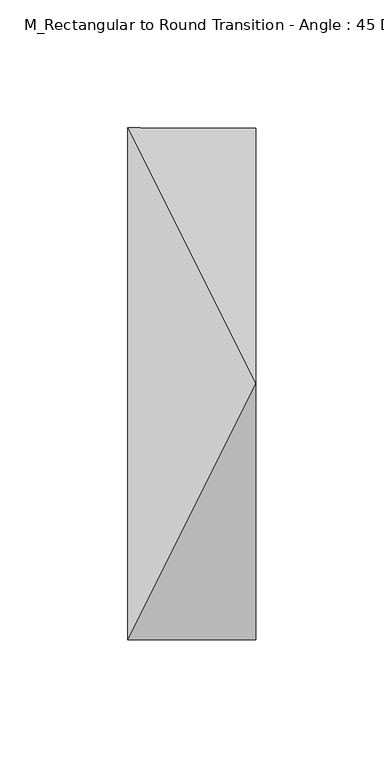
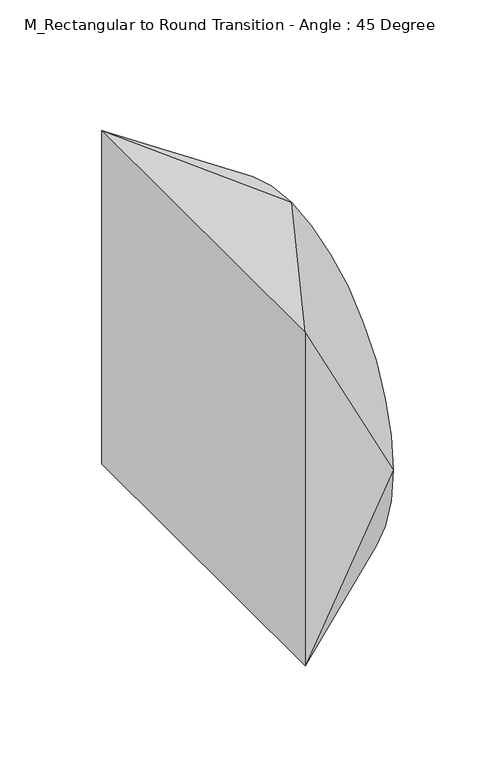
"""IFC4 building model written with IfcOpenShell, lengths in millimetres: duct fitting geometry, M_Rectangular to Round Transition - Angle : 45 Degree."""

from ifc_helpers import new_model, si_unit, frame, origin, place, context, project, spatial, circle_curve, source, transform, mapped, element, save
from ifc_brep_helpers import plane_surface, spline_surface, advanced_brep


def m_rectangular_to_round_transition_angle_45_degree_c109dcb1(model_context):
    return source(origin(), model_context, "Body", "AdvancedBrep", [
        advanced_brep(
        [(0.0, -100.0, -100.0), (0.0, -100.0, 100.0), (0.0, 100.0, 100.0), (0.0, 100.0, -100.0), (50.0, -100.0, 0.0), (50.0, 0.0, -100.0), (50.0, 100.0, 0.0), (50.0, 0.0, 100.0)],
        [
            (0, 1),
            (1, 2),
            (2, 3),
            (3, 0),
            (4, 5, circle_curve(frame((50.0, 0.0, 0.0), z_axis=(1.0, 0.0, 0.0), x_axis=(0.0, -1.0, 0.0)), 100.0)),
            (5, 6, circle_curve(frame((50.0, 0.0, 0.0), z_axis=(1.0, 0.0, 0.0), x_axis=(0.0, -1.0, 0.0)), 100.0)),
            (6, 7, circle_curve(frame((50.0, 0.0, 0.0), z_axis=(1.0, 0.0, 0.0), x_axis=(0.0, -1.0, 0.0)), 100.0)),
            (7, 4, circle_curve(frame((50.0, 0.0, 0.0), z_axis=(1.0, 0.0, 0.0), x_axis=(0.0, -1.0, 0.0)), 100.0)),
            (0, 4),
            (4, 1),
            (7, 1),
            (7, 2),
            (6, 2),
            (6, 3),
            (5, 3),
            (5, 0),
        ],
        [
            plane_surface(frame((0.0, 0.0, 0.0), z_axis=(-1.0, 0.0, 0.0), x_axis=(0.0, 1.0, 0.0))),
            plane_surface(frame((50.0, 0.0, 0.0), z_axis=(1.0, 0.0, 0.0), x_axis=(0.0, 1.0, 0.0))),
            plane_surface(frame((50.0, -100.0, 0.0), z_axis=(0.0, -1.0, 0.0), x_axis=(0.0, 0.0, 1.0))),
            spline_surface(2, 1, [[(50.0, -100.0, 0.0), (0.0, -100.0, 100.0)], [(50.0, -100.0, 100.0), (0.0, -100.0, 100.0)], [(50.0, 0.0, 100.0), (0.0, -100.0, 100.0)]], [3, 3], [2, 2], [0.0, 1.0], [0.0, 1.0], weights=[[1.0, 1.0], [0.7071067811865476, 0.7071067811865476], [1.0, 1.0]]),
            plane_surface(frame((50.0, 0.0, 100.0), z_axis=(0.0, 0.0, 1.0), x_axis=(0.0, 1.0, 0.0))),
            spline_surface(2, 1, [[(50.0, 0.0, 100.0), (0.0, 100.0, 100.0)], [(50.0, 100.0, 100.0), (0.0, 100.0, 100.0)], [(50.0, 100.0, 0.0), (0.0, 100.0, 100.0)]], [3, 3], [2, 2], [0.0, 1.0], [0.0, 1.0], weights=[[1.0, 1.0], [0.7071067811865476, 0.7071067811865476], [1.0, 1.0]]),
            plane_surface(frame((50.0, 100.0, 0.0), z_axis=(0.0, 1.0, 0.0), x_axis=(0.0, 0.0, -1.0))),
            spline_surface(2, 1, [[(50.0, 100.0, 0.0), (0.0, 100.0, -100.0)], [(50.0, 100.0, -100.0), (0.0, 100.0, -100.0)], [(50.0, 0.0, -100.0), (0.0, 100.0, -100.0)]], [3, 3], [2, 2], [0.0, 1.0], [0.0, 1.0], weights=[[1.0, 1.0], [0.7071067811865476, 0.7071067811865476], [1.0, 1.0]]),
            plane_surface(frame((50.0, 0.0, -100.0), z_axis=(0.0, 0.0, -1.0), x_axis=(0.0, -1.0, 0.0))),
            spline_surface(2, 1, [[(50.0, 0.0, -100.0), (0.0, -100.0, -100.0)], [(50.0, -100.0, -100.0), (0.0, -100.0, -100.0)], [(50.0, -100.0, 0.0), (0.0, -100.0, -100.0)]], [3, 3], [2, 2], [0.0, 1.0], [0.0, 1.0], weights=[[1.0, 1.0], [0.7071067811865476, 0.7071067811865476], [1.0, 1.0]]),
        ],
        [
            (0, [[1, 2, 3, 4]]),
            (1, [[5, 6, 7, 8]]),
            (2, [[-1, 9, 10]]),
            (3, [[-8, 11, -10]]),
            (4, [[-2, -11, 12]]),
            (5, [[-7, 13, -12]]),
            (6, [[-3, -13, 14]]),
            (7, [[-6, 15, -14]]),
            (8, [[-4, -15, 16]]),
            (9, [[-5, -9, -16]]),
        ],
    ),
        advanced_brep(
        [(0.0, -100.0, -100.0), (0.0, -100.0, 100.0), (0.0, 100.0, 100.0), (0.0, 100.0, -100.0), (50.0, -100.0, 0.0), (50.0, 0.0, -100.0), (50.0, 100.0, 0.0), (50.0, 0.0, 100.0)],
        [
            (0, 1),
            (1, 2),
            (2, 3),
            (3, 0),
            (4, 5, circle_curve(frame((50.0, 0.0, 0.0), z_axis=(1.0, 0.0, 0.0), x_axis=(0.0, -1.0, 0.0)), 100.0)),
            (5, 6, circle_curve(frame((50.0, 0.0, 0.0), z_axis=(1.0, 0.0, 0.0), x_axis=(0.0, -1.0, 0.0)), 100.0)),
            (6, 7, circle_curve(frame((50.0, 0.0, 0.0), z_axis=(1.0, 0.0, 0.0), x_axis=(0.0, -1.0, 0.0)), 100.0)),
            (7, 4, circle_curve(frame((50.0, 0.0, 0.0), z_axis=(1.0, 0.0, 0.0), x_axis=(0.0, -1.0, 0.0)), 100.0)),
            (0, 4),
            (4, 1),
            (7, 1),
            (7, 2),
            (6, 2),
            (6, 3),
            (5, 3),
            (5, 0),
        ],
        [
            plane_surface(frame((0.0, 0.0, 0.0), z_axis=(-1.0, 0.0, 0.0), x_axis=(0.0, 1.0, 0.0))),
            plane_surface(frame((50.0, 0.0, 0.0), z_axis=(1.0, 0.0, 0.0), x_axis=(0.0, 1.0, 0.0))),
            plane_surface(frame((50.0, -100.0, 0.0), z_axis=(0.0, -1.0, 0.0), x_axis=(0.0, 0.0, 1.0))),
            spline_surface(2, 1, [[(50.0, -100.0, 0.0), (0.0, -100.0, 100.0)], [(50.0, -100.0, 100.0), (0.0, -100.0, 100.0)], [(50.0, 0.0, 100.0), (0.0, -100.0, 100.0)]], [3, 3], [2, 2], [0.0, 1.0], [0.0, 1.0], weights=[[1.0, 1.0], [0.7071067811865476, 0.7071067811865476], [1.0, 1.0]]),
            plane_surface(frame((50.0, 0.0, 100.0), z_axis=(0.0, 0.0, 1.0), x_axis=(0.0, 1.0, 0.0))),
            spline_surface(2, 1, [[(50.0, 0.0, 100.0), (0.0, 100.0, 100.0)], [(50.0, 100.0, 100.0), (0.0, 100.0, 100.0)], [(50.0, 100.0, 0.0), (0.0, 100.0, 100.0)]], [3, 3], [2, 2], [0.0, 1.0], [0.0, 1.0], weights=[[1.0, 1.0], [0.7071067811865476, 0.7071067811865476], [1.0, 1.0]]),
            plane_surface(frame((50.0, 100.0, 0.0), z_axis=(0.0, 1.0, 0.0), x_axis=(0.0, 0.0, -1.0))),
            spline_surface(2, 1, [[(50.0, 100.0, 0.0), (0.0, 100.0, -100.0)], [(50.0, 100.0, -100.0), (0.0, 100.0, -100.0)], [(50.0, 0.0, -100.0), (0.0, 100.0, -100.0)]], [3, 3], [2, 2], [0.0, 1.0], [0.0, 1.0], weights=[[1.0, 1.0], [0.7071067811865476, 0.7071067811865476], [1.0, 1.0]]),
            plane_surface(frame((50.0, 0.0, -100.0), z_axis=(0.0, 0.0, -1.0), x_axis=(0.0, -1.0, 0.0))),
            spline_surface(2, 1, [[(50.0, 0.0, -100.0), (0.0, -100.0, -100.0)], [(50.0, -100.0, -100.0), (0.0, -100.0, -100.0)], [(50.0, -100.0, 0.0), (0.0, -100.0, -100.0)]], [3, 3], [2, 2], [0.0, 1.0], [0.0, 1.0], weights=[[1.0, 1.0], [0.7071067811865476, 0.7071067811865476], [1.0, 1.0]]),
        ],
        [
            (0, [[1, 2, 3, 4]]),
            (1, [[5, 6, 7, 8]]),
            (2, [[-1, 9, 10]]),
            (3, [[-8, 11, -10]]),
            (4, [[-2, -11, 12]]),
            (5, [[-7, 13, -12]]),
            (6, [[-3, -13, 14]]),
            (7, [[-6, 15, -14]]),
            (8, [[-4, -15, 16]]),
            (9, [[-5, -9, -16]]),
        ],
    ),
        advanced_brep(
        [(50.0, 0.0, 100.0), (50.0, -100.0, 0.0), (50.0, 0.0, -100.0), (50.0, 100.0, 0.0), (0.0, -100.0, 100.0), (0.0, 100.0, 100.0), (0.0, 100.0, -100.0), (0.0, -100.0, -100.0)],
        [
            (0, 1, circle_curve(frame((50.0, 0.0, 0.0), z_axis=(1.0, 0.0, 0.0), x_axis=(0.0, 1.0, 0.0)), 100.0)),
            (1, 2, circle_curve(frame((50.0, 0.0, 0.0), z_axis=(1.0, 0.0, 0.0), x_axis=(0.0, 1.0, 0.0)), 100.0)),
            (2, 3, circle_curve(frame((50.0, 0.0, 0.0), z_axis=(1.0, 0.0, 0.0), x_axis=(0.0, 1.0, 0.0)), 100.0)),
            (3, 0, circle_curve(frame((50.0, 0.0, 0.0), z_axis=(1.0, 0.0, 0.0), x_axis=(0.0, 1.0, 0.0)), 100.0)),
            (4, 5),
            (5, 6),
            (6, 7),
            (7, 4),
            (0, 4),
            (4, 1),
            (7, 1),
            (7, 2),
            (6, 2),
            (6, 3),
            (5, 3),
            (5, 0),
        ],
        [
            plane_surface(frame((50.0, 0.0, 0.0), z_axis=(1.0, 0.0, 0.0), x_axis=(0.0, 0.0, -1.0))),
            plane_surface(frame((0.0, 0.0, 0.0), z_axis=(-1.0, 0.0, 0.0), x_axis=(0.0, 0.0, -1.0))),
            spline_surface(2, 1, [[(0.0, -100.0, 100.0), (50.0, 0.0, 100.0)], [(0.0, -100.0, 100.0), (50.0, -100.0, 100.0)], [(0.0, -100.0, 100.0), (50.0, -100.0, 0.0)]], [3, 3], [2, 2], [0.0, 1.0], [0.0, 1.0], weights=[[1.0, 1.0], [0.7071067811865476, 0.7071067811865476], [1.0, 1.0]]),
            plane_surface(frame((0.0, -100.0, 0.0), z_axis=(0.0, -1.0, 0.0), x_axis=(0.0, 0.0, -1.0))),
            spline_surface(2, 1, [[(0.0, -100.0, -100.0), (50.0, -100.0, 0.0)], [(0.0, -100.0, -100.0), (50.0, -100.0, -100.0)], [(0.0, -100.0, -100.0), (50.0, 0.0, -100.0)]], [3, 3], [2, 2], [0.0, 1.0], [0.0, 1.0], weights=[[1.0, 1.0], [0.7071067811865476, 0.7071067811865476], [1.0, 1.0]]),
            plane_surface(frame((0.0, 0.0, -100.0), z_axis=(0.0, 0.0, -1.0), x_axis=(0.0, 1.0, 0.0))),
            spline_surface(2, 1, [[(0.0, 100.0, -100.0), (50.0, 0.0, -100.0)], [(0.0, 100.0, -100.0), (50.0, 100.0, -100.0)], [(0.0, 100.0, -100.0), (50.0, 100.0, 0.0)]], [3, 3], [2, 2], [0.0, 1.0], [0.0, 1.0], weights=[[1.0, 1.0], [0.7071067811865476, 0.7071067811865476], [1.0, 1.0]]),
            plane_surface(frame((0.0, 100.0, 0.0), z_axis=(0.0, 1.0, 0.0), x_axis=(0.0, 0.0, 1.0))),
            spline_surface(2, 1, [[(0.0, 100.0, 100.0), (50.0, 100.0, 0.0)], [(0.0, 100.0, 100.0), (50.0, 100.0, 100.0)], [(0.0, 100.0, 100.0), (50.0, 0.0, 100.0)]], [3, 3], [2, 2], [0.0, 1.0], [0.0, 1.0], weights=[[1.0, 1.0], [0.7071067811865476, 0.7071067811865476], [1.0, 1.0]]),
            plane_surface(frame((0.0, 0.0, 100.0), z_axis=(0.0, 0.0, 1.0), x_axis=(0.0, -1.0, 0.0))),
        ],
        [
            (0, [[1, 2, 3, 4]]),
            (1, [[5, 6, 7, 8]]),
            (2, [[-1, 9, 10]]),
            (3, [[-8, 11, -10]]),
            (4, [[-2, -11, 12]]),
            (5, [[-7, 13, -12]]),
            (6, [[-3, -13, 14]]),
            (7, [[-6, 15, -14]]),
            (8, [[-4, -15, 16]]),
            (9, [[-5, -9, -16]]),
        ],
    ),
    ])


if __name__ == "__main__":
    model = new_model("IFC4")
    model_context = context("Model", 3, world=origin())
    ifc_project = project(units=[si_unit("LENGTHUNIT", "METRE", prefix="MILLI")], contexts=[model_context])
    site = spatial("IfcSite", under=ifc_project)
    building = spatial("IfcBuilding", under=site)
    placement = place(None, origin())
    m_rectangular_to_round_transition_angle_45_degree_shape = m_rectangular_to_round_transition_angle_45_degree_c109dcb1(model_context)
    element("IfcDuctFitting", 1, ObjectType="M_Rectangular to Round Transition - Angle : 45 Degree", at=placement, inside=building, context=model_context, shape_type="MappedRepresentation", body=[
        mapped(m_rectangular_to_round_transition_angle_45_degree_shape, transform((0.0, 0.0, 0.0), x_axis=(1.0, 0.0, 0.0), y_axis=(0.0, 1.0, 0.0), z_axis=(0.0, 0.0, 1.0))),
    ])
    save(model, "model.ifc")
